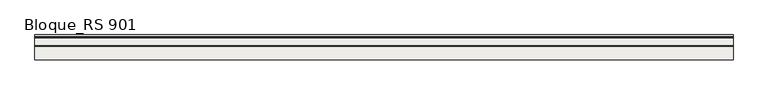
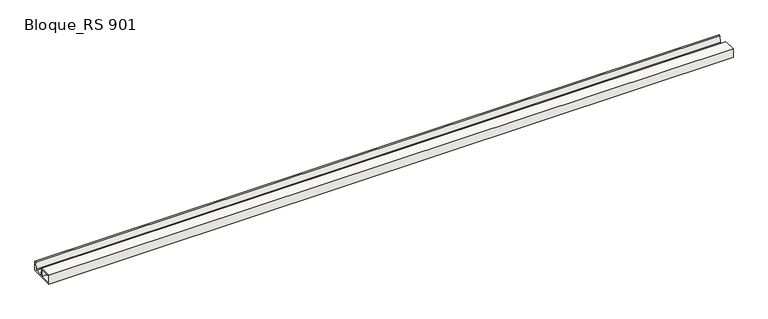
"""IFC4 building model written with IfcOpenShell, lengths in millimetres: slab geometry, ROSA GRES_RS 901 : Bloque_RS 901."""

from ifc_helpers import new_model, si_unit, point, frame, frame_2d, origin, place, context, project, spatial, polyline, circle_curve, trimmed, segment, composite_curve, outline, extrude, source, transform, mapped, element, save


def bloque_rs_901_685c77fb(model_context):
    return source(origin(), model_context, "Body", "SweptSolid", [
        extrude(outline(composite_curve([segment(polyline([(12.836227, 188.7539108), (268.704852, 188.7539108), (282.2408556, 49.1487962)]), True, "CONTINUOUS"), segment(trimmed(circle_curve(frame_2d((301.8831862, 51.599206)), 19.7945866), [point((282.2408556, 49.1487962))], [point((302.2746005, 31.8084896))], True, "CARTESIAN"), True, "CONTINUOUS"), segment(polyline([(302.2746005, 31.8084896), (448.3978535, 31.8084896)]), True, "CONTINUOUS"), segment(trimmed(circle_curve(frame_2d((448.7892677, 51.599206)), 19.7945866), [point((448.3978535, 31.8084896))], [point((468.4315983, 49.1487962))], True, "CARTESIAN"), True, "CONTINUOUS"), segment(polyline([(468.4315983, 49.1487962), (481.967602, 188.7539108), (508.836227, 188.7539108), (508.836227, 1.7539108), (12.836227, 1.7539108), (12.836227, 188.7539108)]), True, "CONTINUOUS")], self_intersect=False), holes=[polyline([(241.836227, 158.7539108), (37.836227, 158.7539108), (37.836227, 26.7539108), (241.836227, 26.7539108), (241.836227, 158.7539108)])]), frame((0.0, 0.0, 0.0), z_axis=(1.0, 0.0, 0.0), x_axis=(0.0, 1.0, 0.0)), (0.0, 0.0, 1.0), 14003.6565286),
    ])


if __name__ == "__main__":
    model = new_model("IFC4")
    model_context = context("Model", 3, world=origin())
    ifc_project = project(units=[si_unit("LENGTHUNIT", "METRE", prefix="MILLI")], contexts=[model_context])
    site = spatial("IfcSite", under=ifc_project)
    building = spatial("IfcBuilding", under=site)
    placement = place(None, origin())
    bloque_rs_901_shape = bloque_rs_901_685c77fb(model_context)
    element("IfcSlab", 1, ObjectType="ROSA GRES_RS 901 : Bloque_RS 901", at=placement, inside=building, context=model_context, shape_type="MappedRepresentation", body=[
        mapped(bloque_rs_901_shape, transform((0.0, 0.0, 0.0), x_axis=(1.0, 0.0, 0.0), y_axis=(0.0, 1.0, 0.0), z_axis=(0.0, 0.0, 1.0))),
    ])
    save(model, "model.ifc")
